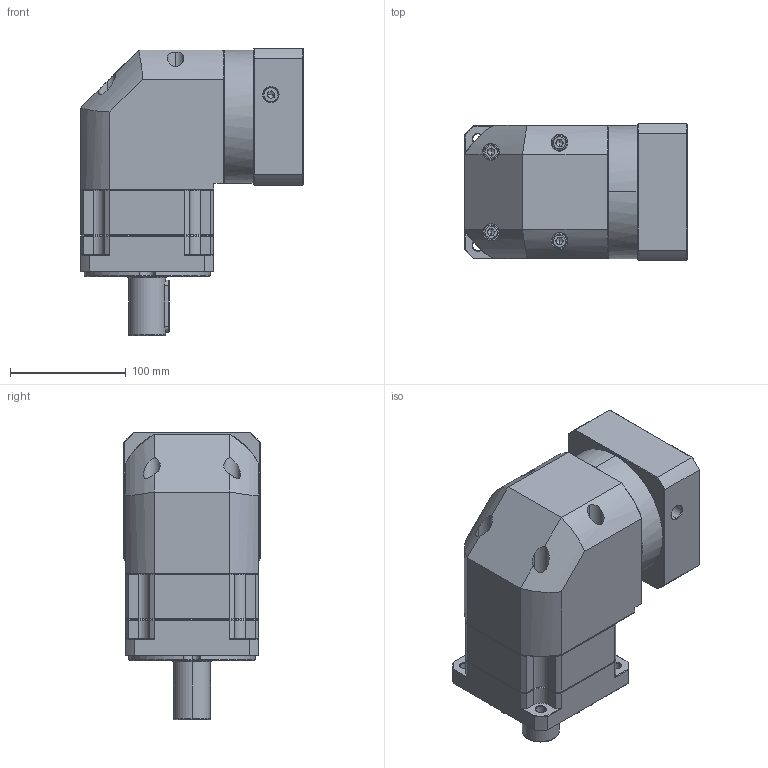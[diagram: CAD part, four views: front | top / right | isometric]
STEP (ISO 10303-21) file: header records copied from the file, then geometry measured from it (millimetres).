
FILE_DESCRIPTION (( 'STEP AP214' ), '1' );
FILE_NAME ('ZBR115A-D32-L1-P2-22-95-115-M8.step', '2023-08-26T12:36:46', ( '' ), ( '' ), 'SwSTEP 2.0', 'SolidWorks 2016', '' );
FILE_SCHEMA (( 'AUTOMOTIVE_DESIGN' ));
Length unit declared in the file: millimetre
Products named in the file (1): ZBR115A-D32-L1-P2-22-95-115-M8
Bounding box: 192.4 x 118 x 248 mm (x, y, z)
Volume: 2975506.1 mm3; surface area: 247332.6 mm2
Topology: 6 solids, 6 shells, 2381 faces, 6235 edges, 3958 vertices
Faces by surface type: plane 1139, cylinder 439, bspline 425, cone 370, torus 8
Entity records: 128381 total; most frequent: CARTESIAN_POINT 47227, ORIENTED_EDGE 12410, DIRECTION 9785, EDGE_CURVE 6205, LINE 3991, VECTOR 3991, VERTEX_POINT 3958, AXIS2_PLACEMENT_3D 2897
